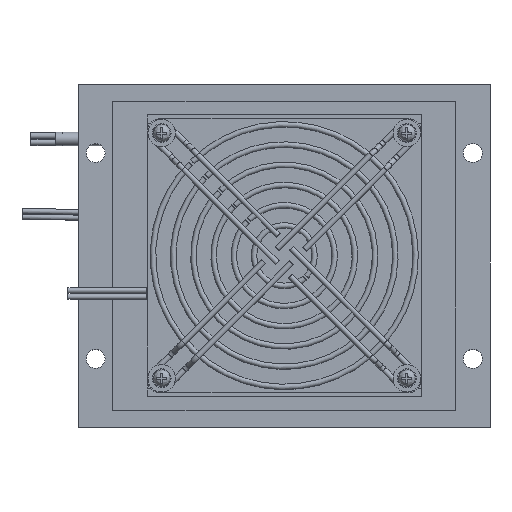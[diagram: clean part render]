
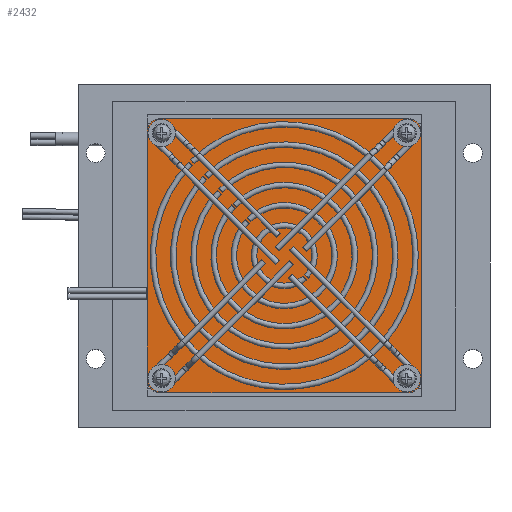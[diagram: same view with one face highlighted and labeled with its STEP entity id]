
A CAD part, top view. The second image highlights one B-rep face of the part: STEP entity #2432.
In plain terms, the highlighted planar face has unit normal (0, 0, 1).
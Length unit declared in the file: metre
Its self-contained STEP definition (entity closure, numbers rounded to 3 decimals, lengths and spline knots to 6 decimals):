
#2432=ADVANCED_FACE('0:569',(#5181,#5182,#5183,#5184,#5185),#5186,.T.);
#5181=FACE_BOUND('',#8914,.T.);
#5182=FACE_BOUND('',#8915,.T.);
#5183=FACE_BOUND('',#8916,.T.);
#5184=FACE_BOUND('',#8917,.T.);
#5185=FACE_OUTER_BOUND('',#8918,.T.);
#5186=PLANE('',#8919);
#8914=EDGE_LOOP('',(#14491));
#8915=EDGE_LOOP('',(#14492));
#8916=EDGE_LOOP('',(#14493));
#8917=EDGE_LOOP('',(#14494));
#8918=EDGE_LOOP('',(#14495,#14496,#14497,#14498,#14499,#14500,#14501,#14502));
#8919=AXIS2_PLACEMENT_3D('',#14503,#14504,#14505);
#14491=ORIENTED_EDGE('',*,*,#20138,.F.);
#14492=ORIENTED_EDGE('',*,*,#20139,.F.);
#14493=ORIENTED_EDGE('',*,*,#20140,.F.);
#14494=ORIENTED_EDGE('',*,*,#20141,.F.);
#14495=ORIENTED_EDGE('',*,*,#20127,.T.);
#14496=ORIENTED_EDGE('',*,*,#20108,.T.);
#14497=ORIENTED_EDGE('',*,*,#20135,.T.);
#14498=ORIENTED_EDGE('',*,*,#20113,.T.);
#14499=ORIENTED_EDGE('',*,*,#20132,.T.);
#14500=ORIENTED_EDGE('',*,*,#20118,.T.);
#14501=ORIENTED_EDGE('',*,*,#20129,.T.);
#14502=ORIENTED_EDGE('',*,*,#20123,.T.);
#14503=CARTESIAN_POINT('',(0.0,0.0,0.01565));
#14504=DIRECTION('',(0.0,0.0,1.0));
#14505=DIRECTION('',(1.0,0.0,0.0));
#20108=EDGE_CURVE('0:7583',#23852,#23850,#23853,.T.);
#20113=EDGE_CURVE('0:6818',#23861,#23859,#23862,.T.);
#20118=EDGE_CURVE('0:5968',#23870,#23868,#23871,.T.);
#20123=EDGE_CURVE('0:4863',#23879,#23877,#23880,.T.);
#20127=EDGE_CURVE('0:584',#23877,#23852,#23884,.T.);
#20129=EDGE_CURVE('0:590',#23868,#23879,#23886,.T.);
#20132=EDGE_CURVE('0:596',#23859,#23870,#23889,.T.);
#20135=EDGE_CURVE('0:602',#23850,#23861,#23892,.T.);
#20138=EDGE_CURVE('0:629',#23895,#23895,#23896,.T.);
#20139=EDGE_CURVE('0:626',#23897,#23897,#23898,.T.);
#20140=EDGE_CURVE('0:623',#23899,#23899,#23900,.T.);
#20141=EDGE_CURVE('0:620',#23901,#23901,#23902,.T.);
#23850=VERTEX_POINT('',#30047);
#23852=VERTEX_POINT('',#30050);
#23853=CIRCLE('',#30051,0.004);
#23859=VERTEX_POINT('',#30058);
#23861=VERTEX_POINT('',#30061);
#23862=CIRCLE('',#30062,0.004);
#23868=VERTEX_POINT('',#30069);
#23870=VERTEX_POINT('',#30072);
#23871=CIRCLE('',#30073,0.004);
#23877=VERTEX_POINT('',#30080);
#23879=VERTEX_POINT('',#30083);
#23880=CIRCLE('',#30084,0.004);
#23884=LINE('',#30090,#30091);
#23886=LINE('',#30093,#30094);
#23889=LINE('',#30098,#30099);
#23892=LINE('',#30103,#30104);
#23895=VERTEX_POINT('',#30108);
#23896=CIRCLE('',#30109,0.00215);
#23897=VERTEX_POINT('',#30110);
#23898=CIRCLE('',#30111,0.00215);
#23899=VERTEX_POINT('',#30112);
#23900=CIRCLE('',#30113,0.00215);
#23901=VERTEX_POINT('',#30114);
#23902=CIRCLE('',#30115,0.00215);
#30047=CARTESIAN_POINT('',(0.036,0.04,0.01565));
#30050=CARTESIAN_POINT('',(0.04,0.036,0.01565));
#30051=AXIS2_PLACEMENT_3D('',#34761,#34762,#34763);
#30058=CARTESIAN_POINT('',(-0.04,0.036,0.01565));
#30061=CARTESIAN_POINT('',(-0.036,0.04,0.01565));
#30062=AXIS2_PLACEMENT_3D('',#34769,#34770,#34771);
#30069=CARTESIAN_POINT('',(-0.036,-0.04,0.01565));
#30072=CARTESIAN_POINT('',(-0.04,-0.036,0.01565));
#30073=AXIS2_PLACEMENT_3D('',#34777,#34778,#34779);
#30080=CARTESIAN_POINT('',(0.04,-0.036,0.01565));
#30083=CARTESIAN_POINT('',(0.036,-0.04,0.01565));
#30084=AXIS2_PLACEMENT_3D('',#34785,#34786,#34787);
#30090=CARTESIAN_POINT('',(0.04,0.0,0.01565));
#30091=VECTOR('',#34790,1.0);
#30093=CARTESIAN_POINT('',(0.0,-0.04,0.01565));
#30094=VECTOR('',#34791,1.0);
#30098=CARTESIAN_POINT('',(-0.04,0.0,0.01565));
#30099=VECTOR('',#34793,1.0);
#30103=CARTESIAN_POINT('',(0.0,0.04,0.01565));
#30104=VECTOR('',#34795,1.0);
#30108=CARTESIAN_POINT('',(0.0379,0.03575,0.01565));
#30109=AXIS2_PLACEMENT_3D('',#34797,#34798,#34799);
#30110=CARTESIAN_POINT('',(0.0379,-0.03575,0.01565));
#30111=AXIS2_PLACEMENT_3D('',#34800,#34801,#34802);
#30112=CARTESIAN_POINT('',(-0.0336,-0.03575,0.01565));
#30113=AXIS2_PLACEMENT_3D('',#34803,#34804,#34805);
#30114=CARTESIAN_POINT('',(-0.0336,0.03575,0.01565));
#30115=AXIS2_PLACEMENT_3D('',#34806,#34807,#34808);
#34761=CARTESIAN_POINT('',(0.036,0.036,0.01565));
#34762=DIRECTION('',(0.0,0.0,1.0));
#34763=DIRECTION('',(1.0,0.0,-0.0));
#34769=CARTESIAN_POINT('',(-0.036,0.036,0.01565));
#34770=DIRECTION('',(0.0,0.0,1.0));
#34771=DIRECTION('',(1.0,0.0,-0.0));
#34777=CARTESIAN_POINT('',(-0.036,-0.036,0.01565));
#34778=DIRECTION('',(0.0,0.0,1.0));
#34779=DIRECTION('',(1.0,0.0,-0.0));
#34785=CARTESIAN_POINT('',(0.036,-0.036,0.01565));
#34786=DIRECTION('',(0.0,0.0,1.0));
#34787=DIRECTION('',(1.0,0.0,-0.0));
#34790=DIRECTION('',(0.0,1.0,0.0));
#34791=DIRECTION('',(1.0,0.0,-0.0));
#34793=DIRECTION('',(0.0,-1.0,0.0));
#34795=DIRECTION('',(-1.0,0.0,0.0));
#34797=CARTESIAN_POINT('',(0.03575,0.03575,0.01565));
#34798=DIRECTION('',(0.0,0.0,1.0));
#34799=DIRECTION('',(1.0,0.0,-0.0));
#34800=CARTESIAN_POINT('',(0.03575,-0.03575,0.01565));
#34801=DIRECTION('',(0.0,0.0,1.0));
#34802=DIRECTION('',(1.0,0.0,-0.0));
#34803=CARTESIAN_POINT('',(-0.03575,-0.03575,0.01565));
#34804=DIRECTION('',(0.0,0.0,1.0));
#34805=DIRECTION('',(1.0,0.0,-0.0));
#34806=CARTESIAN_POINT('',(-0.03575,0.03575,0.01565));
#34807=DIRECTION('',(0.0,0.0,1.0));
#34808=DIRECTION('',(1.0,0.0,-0.0));
